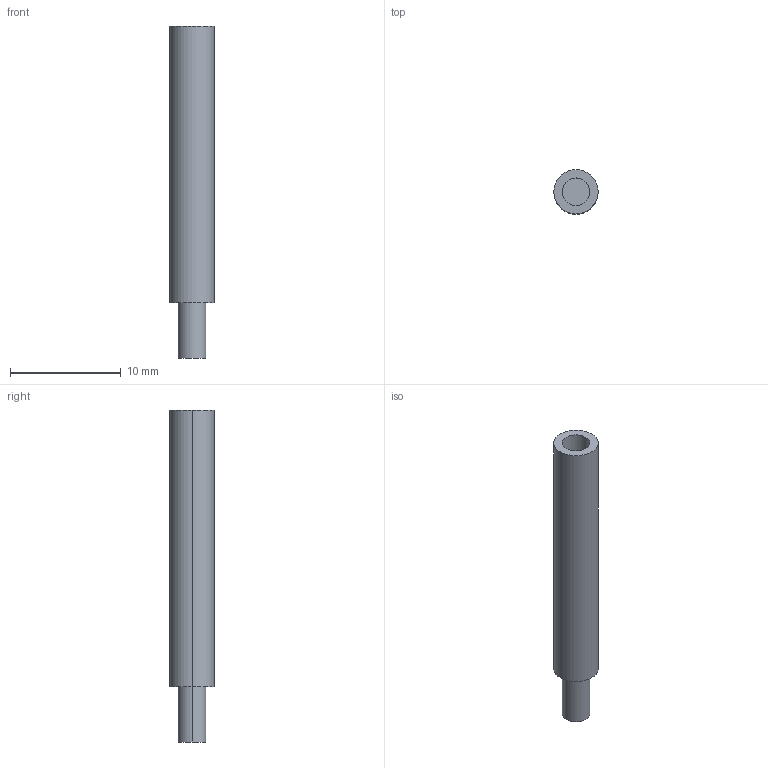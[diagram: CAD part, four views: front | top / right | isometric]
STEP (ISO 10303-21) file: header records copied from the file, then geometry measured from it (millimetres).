
FILE_DESCRIPTION (( 'STEP AP203' ), '1' );
FILE_NAME ('tr-j104.STEP', '2016-10-07T05:28:32', ( '' ), ( '' ), 'SwSTEP 2.0', 'SolidWorks 2014', '' );
FILE_SCHEMA (( 'CONFIG_CONTROL_DESIGN' ));
Length unit declared in the file: millimetre
Products named in the file (1): tr-j104
Bounding box: 4 x 4 x 30 mm (x, y, z)
Volume: 304.3 mm3; surface area: 433.5 mm2
Topology: 1 solids, 1 shells, 10 faces, 18 edges, 12 vertices
Faces by surface type: cylinder 6, plane 4
Entity records: 331 total; most frequent: DIRECTION 52, CARTESIAN_POINT 41, ORIENTED_EDGE 36, AXIS2_PLACEMENT_3D 23, EDGE_CURVE 18, VERTEX_POINT 12, CIRCLE 12, EDGE_LOOP 12
